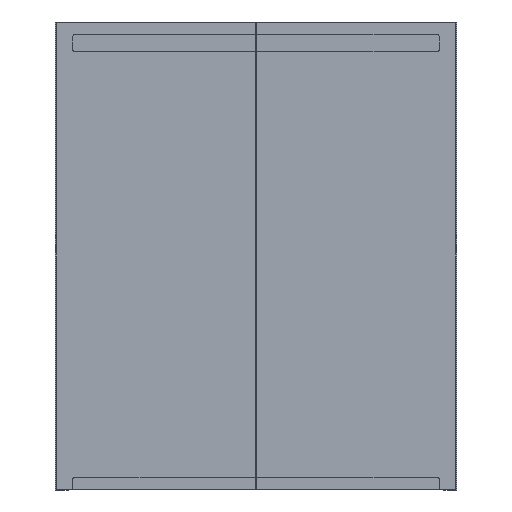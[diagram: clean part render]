
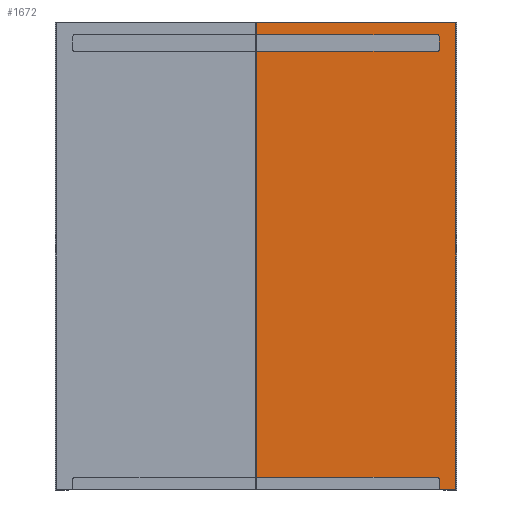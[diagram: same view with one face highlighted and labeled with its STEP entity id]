
A CAD part, front view. The second image highlights one B-rep face of the part: STEP entity #1672.
In plain terms, the highlighted planar face has unit normal (0, -1, 0).
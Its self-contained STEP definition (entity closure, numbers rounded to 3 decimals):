
#23=CIRCLE('',#1777,3.);
#24=CIRCLE('',#1780,3.);
#26=CIRCLE('',#1786,3.);
#101=FACE_OUTER_BOUND('',#189,.T.);
#189=EDGE_LOOP('',(#1320,#1321,#1322,#1323,#1324,#1325,#1326,#1327,#1328,
#1329,#1330,#1331,#1332));
#355=LINE('',#2520,#565);
#357=LINE('',#2525,#567);
#360=LINE('',#2533,#570);
#368=LINE('',#2553,#578);
#369=LINE('',#2557,#579);
#372=LINE('',#2563,#582);
#373=LINE('',#2565,#583);
#374=LINE('',#2567,#584);
#375=LINE('',#2569,#585);
#376=LINE('',#2570,#586);
#565=VECTOR('',#2073,10.);
#567=VECTOR('',#2077,10.);
#570=VECTOR('',#2086,10.);
#578=VECTOR('',#2104,10.);
#579=VECTOR('',#2107,10.);
#582=VECTOR('',#2116,10.);
#583=VECTOR('',#2117,10.);
#584=VECTOR('',#2118,10.);
#585=VECTOR('',#2119,10.);
#586=VECTOR('',#2120,10.);
#729=VERTEX_POINT('',#2516);
#730=VERTEX_POINT('',#2518);
#731=VERTEX_POINT('',#2522);
#732=VERTEX_POINT('',#2524);
#733=VERTEX_POINT('',#2528);
#734=VERTEX_POINT('',#2532);
#740=VERTEX_POINT('',#2549);
#741=VERTEX_POINT('',#2551);
#742=VERTEX_POINT('',#2555);
#743=VERTEX_POINT('',#2556);
#744=VERTEX_POINT('',#2564);
#745=VERTEX_POINT('',#2566);
#746=VERTEX_POINT('',#2568);
#925=EDGE_CURVE('',#729,#730,#355,.T.);
#927=EDGE_CURVE('',#732,#731,#357,.T.);
#929=EDGE_CURVE('',#733,#732,#23,.T.);
#931=EDGE_CURVE('',#734,#733,#360,.T.);
#933=EDGE_CURVE('',#730,#734,#24,.T.);
#941=EDGE_CURVE('',#740,#741,#368,.T.);
#942=EDGE_CURVE('',#742,#743,#369,.T.);
#945=EDGE_CURVE('',#741,#742,#26,.T.);
#946=EDGE_CURVE('',#731,#740,#372,.T.);
#947=EDGE_CURVE('',#743,#744,#373,.T.);
#948=EDGE_CURVE('',#745,#744,#374,.T.);
#949=EDGE_CURVE('',#746,#745,#375,.T.);
#950=EDGE_CURVE('',#746,#729,#376,.T.);
#1320=ORIENTED_EDGE('',*,*,#925,.T.);
#1321=ORIENTED_EDGE('',*,*,#933,.T.);
#1322=ORIENTED_EDGE('',*,*,#931,.T.);
#1323=ORIENTED_EDGE('',*,*,#929,.T.);
#1324=ORIENTED_EDGE('',*,*,#927,.T.);
#1325=ORIENTED_EDGE('',*,*,#946,.T.);
#1326=ORIENTED_EDGE('',*,*,#941,.T.);
#1327=ORIENTED_EDGE('',*,*,#945,.T.);
#1328=ORIENTED_EDGE('',*,*,#942,.T.);
#1329=ORIENTED_EDGE('',*,*,#947,.T.);
#1330=ORIENTED_EDGE('',*,*,#948,.F.);
#1331=ORIENTED_EDGE('',*,*,#949,.F.);
#1332=ORIENTED_EDGE('',*,*,#950,.T.);
#1504=PLANE('',#1787);
#1672=ADVANCED_FACE('',(#101),#1504,.T.);
#1777=AXIS2_PLACEMENT_3D('',#2529,#2081,#2082);
#1780=AXIS2_PLACEMENT_3D('',#2536,#2090,#2091);
#1786=AXIS2_PLACEMENT_3D('',#2561,#2112,#2113);
#1787=AXIS2_PLACEMENT_3D('',#2562,#2114,#2115);
#2073=DIRECTION('',(1.,0.,0.));
#2077=DIRECTION('',(-1.,0.,0.));
#2081=DIRECTION('center_axis',(0.,1.,0.));
#2082=DIRECTION('ref_axis',(0.,0.,1.));
#2086=DIRECTION('',(0.,0.,-1.));
#2090=DIRECTION('center_axis',(0.,1.,0.));
#2091=DIRECTION('ref_axis',(-1.,0.,0.));
#2104=DIRECTION('',(1.,0.,0.));
#2107=DIRECTION('',(0.,0.,-1.));
#2112=DIRECTION('center_axis',(0.,1.,0.));
#2113=DIRECTION('ref_axis',(1.,0.,0.));
#2114=DIRECTION('center_axis',(0.,-1.,0.));
#2115=DIRECTION('ref_axis',(0.,0.,-1.));
#2116=DIRECTION('',(0.,0.,-1.));
#2117=DIRECTION('',(1.,0.,0.));
#2118=DIRECTION('',(0.,0.,-1.));
#2119=DIRECTION('',(1.,0.,0.));
#2120=DIRECTION('',(0.,0.,-1.));
#2516=CARTESIAN_POINT('',(1.,-150.,681.));
#2518=CARTESIAN_POINT('',(271.,-150.,681.));
#2520=CARTESIAN_POINT('',(-135.5,-150.,681.));
#2522=CARTESIAN_POINT('',(1.,-150.,656.));
#2524=CARTESIAN_POINT('',(271.,-150.,656.));
#2525=CARTESIAN_POINT('',(135.5,-150.,656.));
#2528=CARTESIAN_POINT('',(274.,-150.,659.));
#2529=CARTESIAN_POINT('Origin',(271.,-150.,659.));
#2532=CARTESIAN_POINT('',(274.,-150.,678.));
#2533=CARTESIAN_POINT('',(274.,-150.,688.5));
#2536=CARTESIAN_POINT('Origin',(271.,-150.,678.));
#2549=CARTESIAN_POINT('',(1.,-150.,19.));
#2551=CARTESIAN_POINT('',(271.,-150.,19.));
#2553=CARTESIAN_POINT('',(-135.5,-150.,19.));
#2555=CARTESIAN_POINT('',(274.,-150.,16.));
#2556=CARTESIAN_POINT('',(274.,-150.,1.));
#2557=CARTESIAN_POINT('',(274.,-150.,357.5));
#2561=CARTESIAN_POINT('Origin',(271.,-150.,16.));
#2562=CARTESIAN_POINT('Origin',(0.,-150.,699.));
#2563=CARTESIAN_POINT('',(1.,-150.,699.));
#2564=CARTESIAN_POINT('',(299.,-150.,1.));
#2565=CARTESIAN_POINT('',(0.,-150.,1.));
#2566=CARTESIAN_POINT('',(299.,-150.,699.));
#2567=CARTESIAN_POINT('',(299.,-150.,699.));
#2568=CARTESIAN_POINT('',(1.,-150.,699.));
#2569=CARTESIAN_POINT('',(0.,-150.,699.));
#2570=CARTESIAN_POINT('',(1.,-150.,699.));
